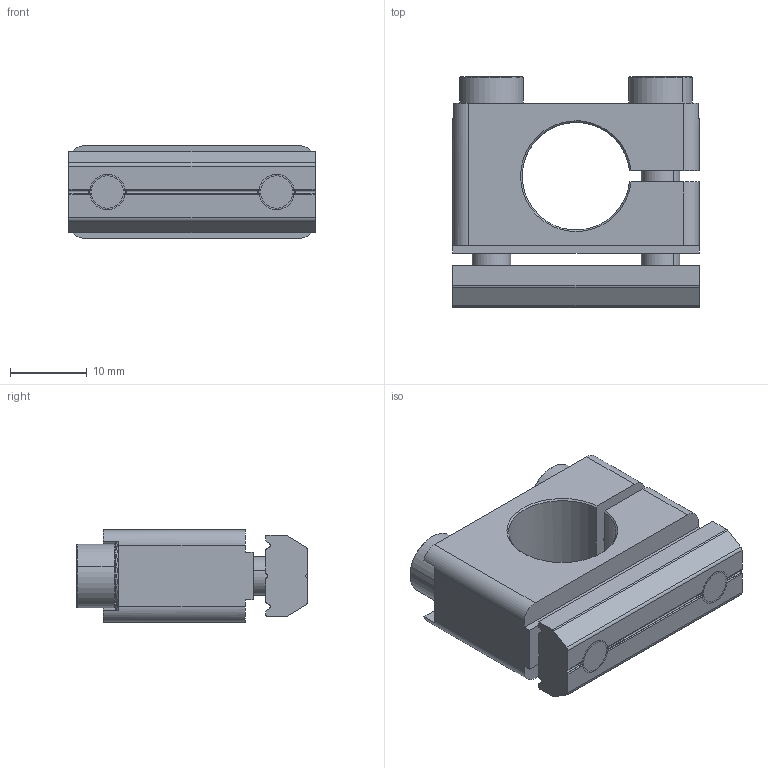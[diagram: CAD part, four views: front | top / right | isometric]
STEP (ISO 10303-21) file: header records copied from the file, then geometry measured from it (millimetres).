
FILE_DESCRIPTION (( 'STEP AP214' ), '1' );
FILE_NAME ('SMBC-1432T.STEP', '2022-12-08T09:21:38', ( '' ), ( '' ), 'SwSTEP 2.0', 'SolidWorks 2018', '' );
FILE_SCHEMA (( 'AUTOMOTIVE_DESIGN' ));
Length unit declared in the file: millimetre
Products named in the file (5): PTC-M5L25; PTN-M5P22; SMBC-1432T; SMBC-1432; PTS-M5
Assembly tree (6 placements, depth 2):
  SMBC-1432T
    SMBC-1432
    PTC-M5L25  x2
    PTN-M5P22
    PTS-M5  x2
Bounding box: 32 x 30 x 12 mm (x, y, z)
Volume: 7152.5 mm3; surface area: 6016.3 mm2
Topology: 6 solids, 6 shells, 467 faces, 1365 edges, 906 vertices
Faces by surface type: plane 387, cylinder 65, cone 15
Entity records: 9779 total; most frequent: CARTESIAN_POINT 1831, ORIENTED_EDGE 1662, DIRECTION 1627, EDGE_CURVE 831, AXIS2_PLACEMENT_3D 556, VERTEX_POINT 552, VECTOR 515, LINE 515
